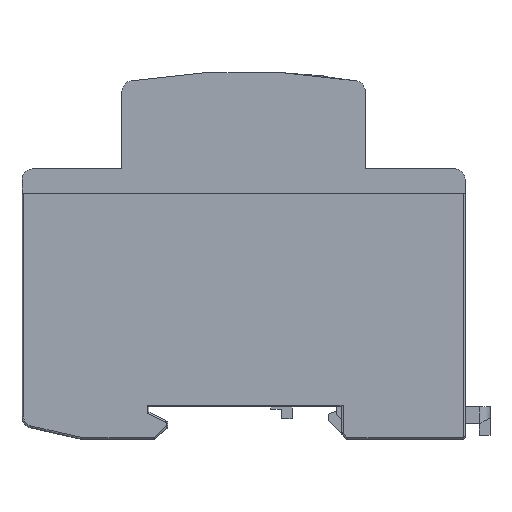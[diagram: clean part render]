
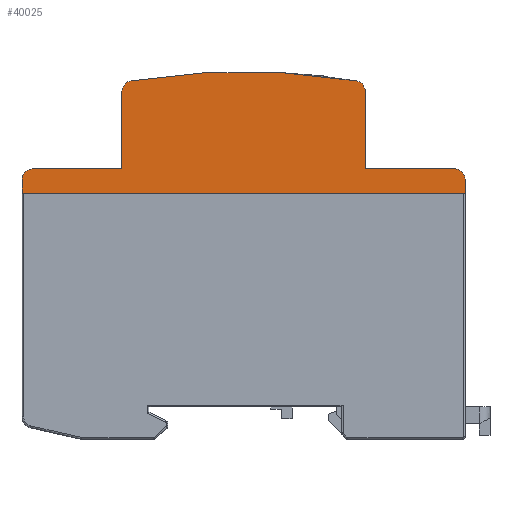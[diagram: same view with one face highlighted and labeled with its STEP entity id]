
A CAD part, top view. The second image highlights one B-rep face of the part: STEP entity #40025.
In plain terms, the highlighted planar face has unit normal (0, 0, 1).
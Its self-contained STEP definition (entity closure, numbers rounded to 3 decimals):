
#219 = CARTESIAN_POINT ( 'NONE',  ( 0., -65.563, 17.7 ) ) ;
#2013 = CIRCLE ( 'NONE', #49019, 2. ) ;
#2565 = VERTEX_POINT ( 'NONE', #26231 ) ;
#2906 = CARTESIAN_POINT ( 'NONE',  ( 41., 42., 17.7 ) ) ;
#3322 = LINE ( 'NONE', #28429, #50668 ) ;
#4779 = AXIS2_PLACEMENT_3D ( 'NONE', #219, #66717, #37224 ) ;
#5149 = DIRECTION ( 'NONE',  ( -1., 0., 0. ) ) ;
#5199 = ORIENTED_EDGE ( 'NONE', *, *, #71254, .T. ) ;
#5514 = DIRECTION ( 'NONE',  ( 1., 0., 0. ) ) ;
#5731 = DIRECTION ( 'NONE',  ( 1., 0., 0. ) ) ;
#6526 = EDGE_CURVE ( 'NONE', #43663, #2565, #28401, .T. ) ;
#7612 = AXIS2_PLACEMENT_3D ( 'NONE', #52036, #51639, #64374 ) ;
#10325 = LINE ( 'NONE', #21893, #55656 ) ;
#10801 = ORIENTED_EDGE ( 'NONE', *, *, #34248, .F. ) ;
#11539 = EDGE_CURVE ( 'NONE', #2565, #59480, #46355, .T. ) ;
#15659 = LINE ( 'NONE', #53492, #20130 ) ;
#16491 = CARTESIAN_POINT ( 'NONE',  ( 0., 44., 17.7 ) ) ;
#17454 = VECTOR ( 'NONE', #67571, 1000. ) ;
#17672 = CARTESIAN_POINT ( 'NONE',  ( 39., 42., 17.7 ) ) ;
#19238 = DIRECTION ( 'NONE',  ( -1., 0., 0. ) ) ;
#20130 = VECTOR ( 'NONE', #76972, 1000. ) ;
#20310 = EDGE_CURVE ( 'NONE', #63632, #43663, #36912, .T. ) ;
#21093 = EDGE_CURVE ( 'NONE', #27549, #41647, #15659, .T. ) ;
#21893 = CARTESIAN_POINT ( 'NONE',  ( 0., 44., 17.7 ) ) ;
#22182 = PLANE ( 'NONE',  #7612 ) ;
#23949 = CARTESIAN_POINT ( 'NONE',  ( -41., 39.5, 17.7 ) ) ;
#24624 = DIRECTION ( 'NONE',  ( 0., 0., -1. ) ) ;
#26231 = CARTESIAN_POINT ( 'NONE',  ( -39., 44., 17.7 ) ) ;
#27549 = VERTEX_POINT ( 'NONE', #68277 ) ;
#27636 = DIRECTION ( 'NONE',  ( 0., 1., 0. ) ) ;
#28401 = CIRCLE ( 'NONE', #32204, 2. ) ;
#28429 = CARTESIAN_POINT ( 'NONE',  ( 41., 40.75, 17.7 ) ) ;
#29993 = CARTESIAN_POINT ( 'NONE',  ( 41., 39.5, 17.7 ) ) ;
#30228 = ORIENTED_EDGE ( 'NONE', *, *, #11539, .F. ) ;
#30345 = EDGE_CURVE ( 'NONE', #63195, #72604, #34589, .T. ) ;
#30947 = VECTOR ( 'NONE', #5731, 1000. ) ;
#31980 = EDGE_CURVE ( 'NONE', #53075, #27549, #2013, .T. ) ;
#32204 = AXIS2_PLACEMENT_3D ( 'NONE', #48509, #24624, #5514 ) ;
#33928 = CARTESIAN_POINT ( 'NONE',  ( -20.827, 60.288, 17.7 ) ) ;
#34118 = ORIENTED_EDGE ( 'NONE', *, *, #31980, .F. ) ;
#34248 = EDGE_CURVE ( 'NONE', #72604, #53075, #65782, .T. ) ;
#34589 = CIRCLE ( 'NONE', #71503, 2. ) ;
#34823 = VERTEX_POINT ( 'NONE', #29993 ) ;
#35420 = CARTESIAN_POINT ( 'NONE',  ( 20.5, 58.315, 17.7 ) ) ;
#35730 = EDGE_CURVE ( 'NONE', #34823, #42670, #3322, .T. ) ;
#36912 = LINE ( 'NONE', #67966, #17454 ) ;
#37151 = LINE ( 'NONE', #37542, #64687 ) ;
#37224 = DIRECTION ( 'NONE',  ( 1., 0., 0. ) ) ;
#37542 = CARTESIAN_POINT ( 'NONE',  ( 0., 39.5, 17.7 ) ) ;
#40025 = ADVANCED_FACE ( 'NONE', ( #46864 ), #22182, .T. ) ;
#41647 = VERTEX_POINT ( 'NONE', #44344 ) ;
#42350 = DIRECTION ( 'NONE',  ( 1., 0., 0. ) ) ;
#42376 = ORIENTED_EDGE ( 'NONE', *, *, #74503, .T. ) ;
#42670 = VERTEX_POINT ( 'NONE', #2906 ) ;
#43583 = VECTOR ( 'NONE', #45727, 1000. ) ;
#43663 = VERTEX_POINT ( 'NONE', #78236 ) ;
#44344 = CARTESIAN_POINT ( 'NONE',  ( 22.5, 44., 17.7 ) ) ;
#45727 = DIRECTION ( 'NONE',  ( 0., 1., 0. ) ) ;
#46355 = LINE ( 'NONE', #16491, #30947 ) ;
#46864 = FACE_OUTER_BOUND ( 'NONE', #57209, .T. ) ;
#48247 = ORIENTED_EDGE ( 'NONE', *, *, #55788, .F. ) ;
#48509 = CARTESIAN_POINT ( 'NONE',  ( -39., 42., 17.7 ) ) ;
#49019 = AXIS2_PLACEMENT_3D ( 'NONE', #35420, #77627, #59731 ) ;
#50668 = VECTOR ( 'NONE', #27636, 1000. ) ;
#51639 = DIRECTION ( 'NONE',  ( 0., 0., 1. ) ) ;
#52036 = CARTESIAN_POINT ( 'NONE',  ( -42.64, 39.05, 17.7 ) ) ;
#52094 = LINE ( 'NONE', #58453, #43583 ) ;
#53075 = VERTEX_POINT ( 'NONE', #54240 ) ;
#53492 = CARTESIAN_POINT ( 'NONE',  ( 22.5, 50.76, 17.7 ) ) ;
#54240 = CARTESIAN_POINT ( 'NONE',  ( 20.827, 60.288, 17.7 ) ) ;
#55656 = VECTOR ( 'NONE', #77996, 1000. ) ;
#55788 = EDGE_CURVE ( 'NONE', #57932, #42670, #71322, .T. ) ;
#56732 = ORIENTED_EDGE ( 'NONE', *, *, #20310, .F. ) ;
#57209 = EDGE_LOOP ( 'NONE', ( #30228, #73646, #56732, #42376, #60163, #48247, #5199, #70414, #34118, #10801, #60680, #77677 ) ) ;
#57932 = VERTEX_POINT ( 'NONE', #64010 ) ;
#58453 = CARTESIAN_POINT ( 'NONE',  ( -22.5, 50.76, 17.7 ) ) ;
#58457 = EDGE_CURVE ( 'NONE', #59480, #63195, #52094, .T. ) ;
#59480 = VERTEX_POINT ( 'NONE', #76785 ) ;
#59731 = DIRECTION ( 'NONE',  ( 1., 0., 0. ) ) ;
#60163 = ORIENTED_EDGE ( 'NONE', *, *, #35730, .T. ) ;
#60680 = ORIENTED_EDGE ( 'NONE', *, *, #30345, .F. ) ;
#60897 = DIRECTION ( 'NONE',  ( 0., 0., -1. ) ) ;
#63195 = VERTEX_POINT ( 'NONE', #65062 ) ;
#63632 = VERTEX_POINT ( 'NONE', #23949 ) ;
#64010 = CARTESIAN_POINT ( 'NONE',  ( 39., 44., 17.7 ) ) ;
#64374 = DIRECTION ( 'NONE',  ( 1., 0., 0. ) ) ;
#64687 = VECTOR ( 'NONE', #42350, 1000. ) ;
#65062 = CARTESIAN_POINT ( 'NONE',  ( -22.5, 58.315, 17.7 ) ) ;
#65782 = CIRCLE ( 'NONE', #4779, 127.562 ) ;
#66717 = DIRECTION ( 'NONE',  ( 0., 0., -1. ) ) ;
#67571 = DIRECTION ( 'NONE',  ( 0., 1., 0. ) ) ;
#67966 = CARTESIAN_POINT ( 'NONE',  ( -41., 50.76, 17.7 ) ) ;
#68277 = CARTESIAN_POINT ( 'NONE',  ( 22.5, 58.315, 17.7 ) ) ;
#68815 = AXIS2_PLACEMENT_3D ( 'NONE', #17672, #72597, #19238 ) ;
#70414 = ORIENTED_EDGE ( 'NONE', *, *, #21093, .F. ) ;
#71254 = EDGE_CURVE ( 'NONE', #57932, #41647, #10325, .T. ) ;
#71322 = CIRCLE ( 'NONE', #68815, 2. ) ;
#71503 = AXIS2_PLACEMENT_3D ( 'NONE', #78394, #60897, #5149 ) ;
#72597 = DIRECTION ( 'NONE',  ( 0., 0., -1. ) ) ;
#72604 = VERTEX_POINT ( 'NONE', #33928 ) ;
#73646 = ORIENTED_EDGE ( 'NONE', *, *, #6526, .F. ) ;
#74503 = EDGE_CURVE ( 'NONE', #63632, #34823, #37151, .T. ) ;
#76785 = CARTESIAN_POINT ( 'NONE',  ( -22.5, 44., 17.7 ) ) ;
#76972 = DIRECTION ( 'NONE',  ( 0., -1., 0. ) ) ;
#77627 = DIRECTION ( 'NONE',  ( 0., 0., -1. ) ) ;
#77677 = ORIENTED_EDGE ( 'NONE', *, *, #58457, .F. ) ;
#77996 = DIRECTION ( 'NONE',  ( -1., 0., 0. ) ) ;
#78236 = CARTESIAN_POINT ( 'NONE',  ( -41., 42., 17.7 ) ) ;
#78394 = CARTESIAN_POINT ( 'NONE',  ( -20.5, 58.315, 17.7 ) ) ;
